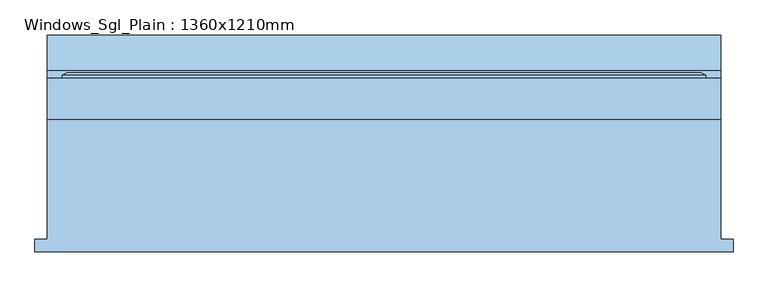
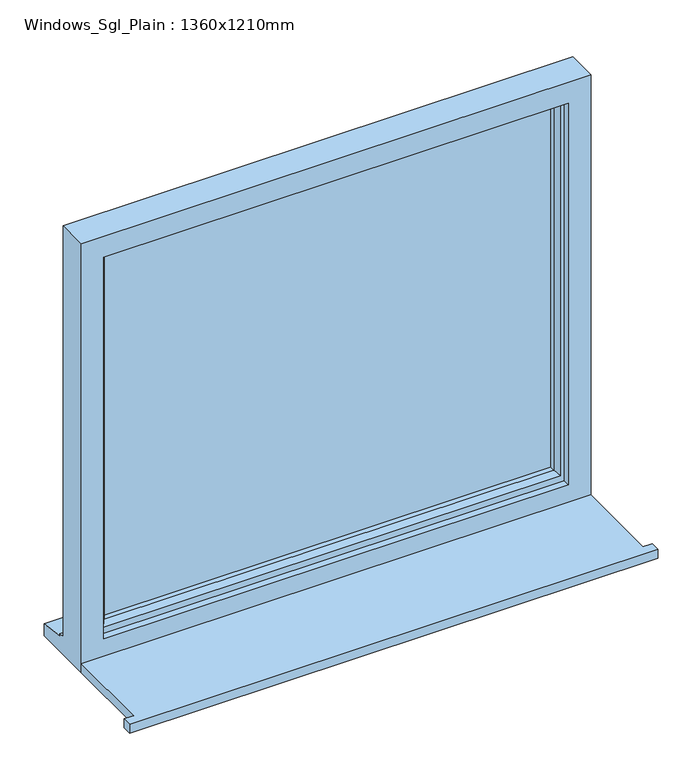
"""IFC4 building model written with IfcOpenShell, lengths in millimetres: window geometry, Windows_Sgl_Plain : 1360x1210mm."""

from ifc_helpers import new_model, si_unit, frame, origin, place, context, project, spatial, polyline, outline, extrude, faceted_brep, source, transform, mapped, element, save


def windows_sgl_plain_1360x1210mm_da96fe12(model_context):
    return source(origin(), model_context, "Body", "SolidModel", [
        extrude(outline(polyline([(-705.0, -204.0434322), (-705.0, -179.0434322), (-680.0, -179.0434322), (-680.0, 62.9565678), (680.0, 62.9565678), (680.0, -179.0434322), (705.0, -179.0434322), (705.0, -204.0434322), (-705.0, -204.0434322)])), frame((0.0, 0.0, 900.0), z_axis=(0.0, 0.0, 1.0), x_axis=(1.0, 0.0, 0.0)), (0.0, 0.0, 1.0), 25.0),
        faceted_brep([(-680.0, 62.9565678, 900.0), (680.0, 62.9565678, 900.0), (680.0, 62.9565678, 2110.0), (-680.0, 62.9565678, 2110.0), (-620.0, 62.9565678, 2050.0), (620.0, 62.9565678, 2050.0), (620.0, 62.9565678, 975.0), (-620.0, 62.9565678, 975.0), (-680.0, 145.9565678, 2110.0), (-680.0, 145.9565678, 951.0), (-680.0, 160.9565678, 949.68767), (-680.0, 160.9565678, 944.7449676), (-680.0, 233.4565678, 933.8088847), (-680.0, 233.4565678, 900.0), (680.0, 145.9565678, 2110.0), (680.0, 145.9565678, 951.0), (-640.0, 145.9565678, 2070.0), (-640.0, 145.9565678, 963.0), (640.0, 145.9565678, 963.0), (640.0, 145.9565678, 2070.0), (-640.0, 80.9565678, 2070.0), (-640.0, 80.9565678, 963.0), (640.0, 80.9565678, 2070.0), (640.0, 80.9565678, 963.0), (-620.0, 80.9565678, 2050.0), (-620.0, 80.9565678, 975.0), (620.0, 80.9565678, 975.0), (620.0, 80.9565678, 2050.0), (680.0, 233.4565678, 900.0), (680.0, 233.4565678, 933.8088847), (680.0, 160.9565678, 944.7449676), (680.0, 160.9565678, 949.68767)], [[[0, 1, 2, 3], [4, 5, 6, 7]], [[0, 3, 8, 9, 10, 11, 12, 13]], [[9, 8, 14, 15], [16, 17, 18, 19]], [[17, 16, 20, 21]], [[20, 22, 23, 21], [24, 25, 26, 27]], [[24, 4, 7, 25]], [[3, 2, 14, 8]], [[16, 19, 22, 20]], [[5, 4, 24, 27]], [[15, 14, 2, 1, 28, 29, 30, 31]], [[19, 18, 23, 22]], [[5, 27, 26, 6]], [[28, 1, 0, 13]], [[29, 28, 13, 12]], [[30, 29, 12, 11]], [[31, 30, 11, 10]], [[15, 31, 10, 9]], [[21, 23, 18, 17]], [[7, 6, 26, 25]]]),
        extrude(outline(polyline([(610.0, 109.9565678), (-610.0, 109.9565678), (-610.0, 133.9565678), (610.0, 133.9565678), (610.0, 109.9565678)])), frame((0.0, 0.0, 993.0), z_axis=(0.0, 0.0, 1.0), x_axis=(1.0, 0.0, 0.0)), (0.0, 0.0, 1.0), 1047.0),
        faceted_brep([(-650.0, 145.9565678, 2080.0), (-650.0, 151.7300705, 2080.0), (-650.0, 151.7300705, 953.0), (-650.0, 145.9565678, 953.0), (-640.0, 80.9565678, 2070.0), (-640.0, 145.9565678, 2070.0), (-640.0, 145.9565678, 963.0), (-640.0, 80.9565678, 963.0), (-600.0, 95.4494677, 2030.0), (-610.1480377, 80.9565678, 2040.1480377), (-610.1480377, 80.9565678, 992.8519623), (-600.0, 95.4494677, 1003.0), (-600.0, 109.9565678, 2030.0), (-600.0, 109.9565678, 1003.0), (-610.0, 133.9565678, 2040.0), (-610.0, 109.9565678, 2040.0), (-610.0, 109.9565678, 993.0), (-610.0, 133.9565678, 993.0), (-600.0, 151.7300705, 2030.0), (-600.0, 133.9565678, 2030.0), (-600.0, 133.9565678, 1003.0), (-600.0, 151.7300705, 1003.0), (-617.4457548, 157.5035732, 2047.4457548), (-617.4457548, 157.5035732, 985.5542452), (-639.2153903, 157.5035732, 2069.2153903), (-639.2153903, 157.5035732, 963.7846097), (650.0, 151.7300705, 953.0), (650.0, 145.9565678, 953.0), (640.0, 145.9565678, 963.0), (640.0, 80.9565678, 963.0), (610.1480377, 80.9565678, 992.8519623), (600.0, 95.4494677, 1003.0), (600.0, 109.9565678, 1003.0), (610.0, 109.9565678, 993.0), (610.0, 133.9565678, 993.0), (600.0, 133.9565678, 1003.0), (600.0, 151.7300705, 1003.0), (617.4457548, 157.5035732, 985.5542452), (639.2153903, 157.5035732, 963.7846097), (650.0, 151.7300705, 2080.0), (650.0, 145.9565678, 2080.0), (640.0, 145.9565678, 2070.0), (640.0, 80.9565678, 2070.0), (610.1480377, 80.9565678, 2040.1480377), (600.0, 95.4494677, 2030.0), (600.0, 109.9565678, 2030.0), (610.0, 109.9565678, 2040.0), (610.0, 133.9565678, 2040.0), (600.0, 133.9565678, 2030.0), (600.0, 151.7300705, 2030.0), (617.4457548, 157.5035732, 2047.4457548), (639.2153903, 157.5035732, 2069.2153903)], [[[0, 1, 2, 3]], [[4, 5, 6, 7]], [[8, 9, 10, 11]], [[12, 8, 11, 13]], [[14, 15, 16, 17]], [[18, 19, 20, 21]], [[22, 18, 21, 23]], [[1, 24, 25, 2]], [[3, 2, 26, 27]], [[7, 6, 28, 29]], [[11, 10, 30, 31]], [[13, 11, 31, 32]], [[17, 16, 33, 34]], [[21, 20, 35, 36]], [[23, 21, 36, 37]], [[2, 25, 38, 26]], [[27, 26, 39, 40]], [[29, 28, 41, 42]], [[31, 30, 43, 44]], [[32, 31, 44, 45]], [[34, 33, 46, 47]], [[36, 35, 48, 49]], [[37, 36, 49, 50]], [[26, 38, 51, 39]], [[40, 39, 1, 0]], [[3, 27, 40, 0], [5, 41, 28, 6]], [[42, 41, 5, 4]], [[7, 29, 42, 4], [9, 43, 30, 10]], [[44, 43, 9, 8]], [[45, 44, 8, 12]], [[15, 46, 33, 16], [13, 32, 45, 12]], [[47, 46, 15, 14]], [[17, 34, 47, 14], [19, 48, 35, 20]], [[49, 48, 19, 18]], [[50, 49, 18, 22]], [[24, 51, 38, 25], [23, 37, 50, 22]], [[39, 51, 24, 1]]]),
    ])


if __name__ == "__main__":
    model = new_model("IFC4")
    model_context = context("Model", 3, world=origin())
    ifc_project = project(units=[si_unit("LENGTHUNIT", "METRE", prefix="MILLI")], contexts=[model_context])
    site = spatial("IfcSite", under=ifc_project)
    building = spatial("IfcBuilding", under=site)
    placement = place(None, origin())
    windows_sgl_plain_1360x1210mm_shape = windows_sgl_plain_1360x1210mm_da96fe12(model_context)
    element("IfcWindow", 1, ObjectType="Windows_Sgl_Plain : 1360x1210mm", at=placement, inside=building, context=model_context, shape_type="MappedRepresentation", body=[
        mapped(windows_sgl_plain_1360x1210mm_shape, transform((0.0, 0.0, 0.0), x_axis=(1.0, 0.0, 0.0), y_axis=(0.0, 1.0, 0.0), z_axis=(0.0, 0.0, 1.0))),
    ])
    save(model, "model.ifc")
